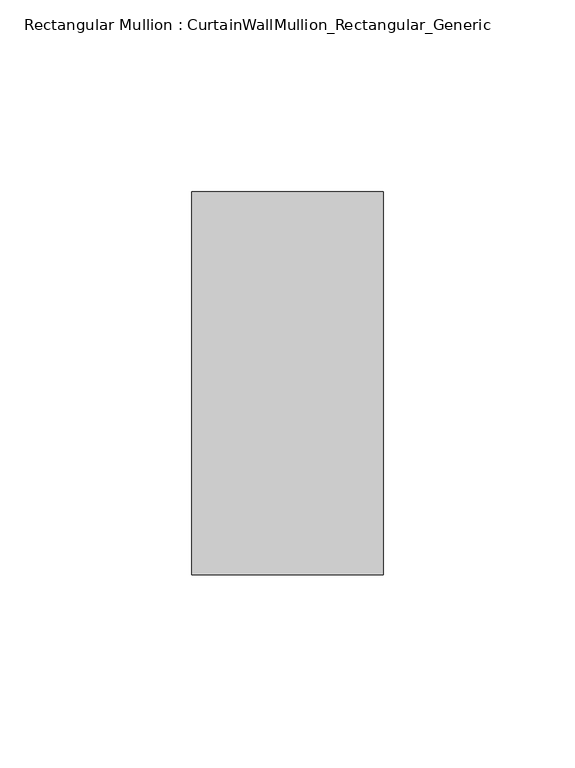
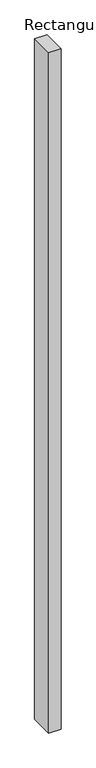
"""IFC4 building model written with IfcOpenShell, lengths in millimetres: member geometry, Rectangular Mullion : CurtainWallMullion_Rectangular_Generic."""

from ifc_helpers import new_model, si_unit, frame, origin, place, context, project, spatial, polyline, outline, extrude, source, transform, mapped, element, save


def rectangular_mullion_curtainwallmullion_rectangular_generic_f3eef52e(model_context):
    return source(origin(), model_context, "Body", "SweptSolid", [
        extrude(outline(polyline([(25.0, 50.0), (25.0, -50.0), (-25.0, -50.0), (-25.0, 50.0), (25.0, 50.0)])), frame((0.0, 0.0, -2950.0), z_axis=(0.0, 0.0, 1.0), x_axis=(1.0, 0.0, 0.0)), (0.0, 0.0, 1.0), 2950.0),
    ])


if __name__ == "__main__":
    model = new_model("IFC4")
    model_context = context("Model", 3, world=origin())
    ifc_project = project(units=[si_unit("LENGTHUNIT", "METRE", prefix="MILLI")], contexts=[model_context])
    site = spatial("IfcSite", under=ifc_project)
    building = spatial("IfcBuilding", under=site)
    placement = place(None, origin())
    rectangular_mullion_curtainwallmullion_rectangular_generic_shape = rectangular_mullion_curtainwallmullion_rectangular_generic_f3eef52e(model_context)
    element("IfcMember", 1, ObjectType="Rectangular Mullion : CurtainWallMullion_Rectangular_Generic", at=placement, inside=building, context=model_context, shape_type="MappedRepresentation", body=[
        mapped(rectangular_mullion_curtainwallmullion_rectangular_generic_shape, transform((0.0, 0.0, 0.0), x_axis=(1.0, 0.0, 0.0), y_axis=(0.0, 1.0, 0.0), z_axis=(0.0, 0.0, 1.0))),
    ])
    save(model, "model.ifc")
